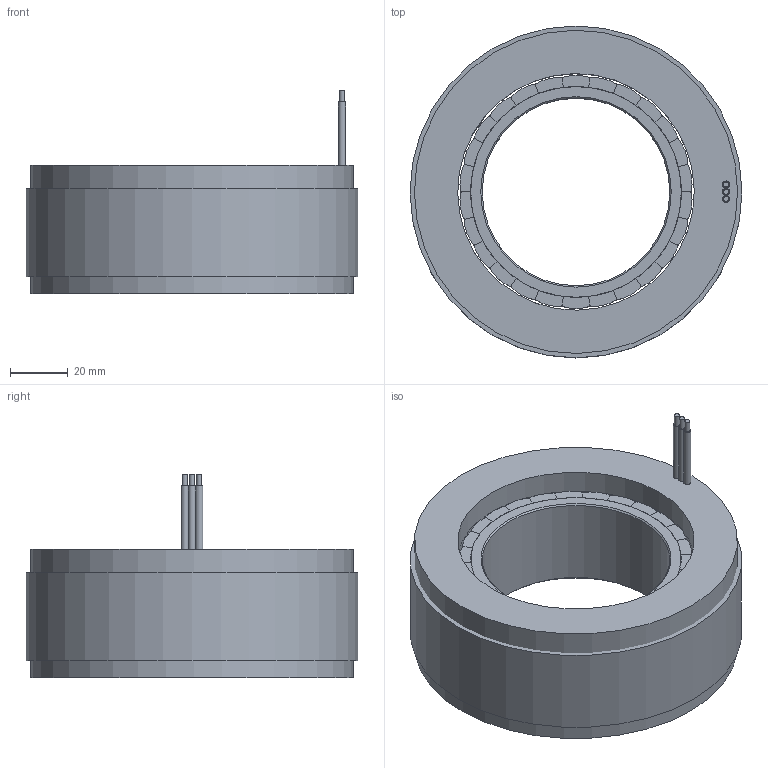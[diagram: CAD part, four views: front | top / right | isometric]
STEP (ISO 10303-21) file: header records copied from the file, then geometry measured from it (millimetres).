
FILE_DESCRIPTION (( 'STEP AP203' ), '1' );
FILE_NAME ('U11544µç»ú.STEP', '2024-03-09T08:19:36', ( '' ), ( '' ), 'SwSTEP 2.0', 'SolidWorks 2022', '' );
FILE_SCHEMA (( 'CONFIG_CONTROL_DESIGN' ));
Length unit declared in the file: millimetre
Products named in the file (12): AWG14萇擢; 11526蝶; 11526隅赽; 11526蛌赽; 11526棠沺; 11526沺陑芨葡; 11526线圈; 11526蛌粣; AWG14ｰﾗ; U11544萇儂; AWG14ｺﾚ; AWG14ºì
Assembly tree (59 placements, depth 3):
  U11544萇儂
    11526隅赽
      11526沺陑芨葡
      11526线圈  x24
      11526蝶
    11526蛌赽
      11526蛌粣
      11526棠沺  x26
    AWG14萇擢
      AWG14ｰﾗ
      AWG14ｺﾚ
      AWG14ºì
Bounding box: 115 x 115 x 70.4 mm (x, y, z)
Volume: 429245.3 mm3; surface area: 188773.9 mm2
Topology: 56 solids, 56 shells, 866 faces, 2245 edges, 1497 vertices
Faces by surface type: plane 506, cylinder 358, cone 2
Full cylindrical faces by diameter (mm): 1.8 x6, 2.5 x3, 65 x1, 73 x1, 82 x1, 112 x1, 115 x1
Entity records: 10716 total; most frequent: DIRECTION 1456, CARTESIAN_POINT 1447, ORIENTED_EDGE 1344, EDGE_CURVE 672, LINE 522, VECTOR 522, AXIS2_PLACEMENT_3D 467, VERTEX_POINT 458
